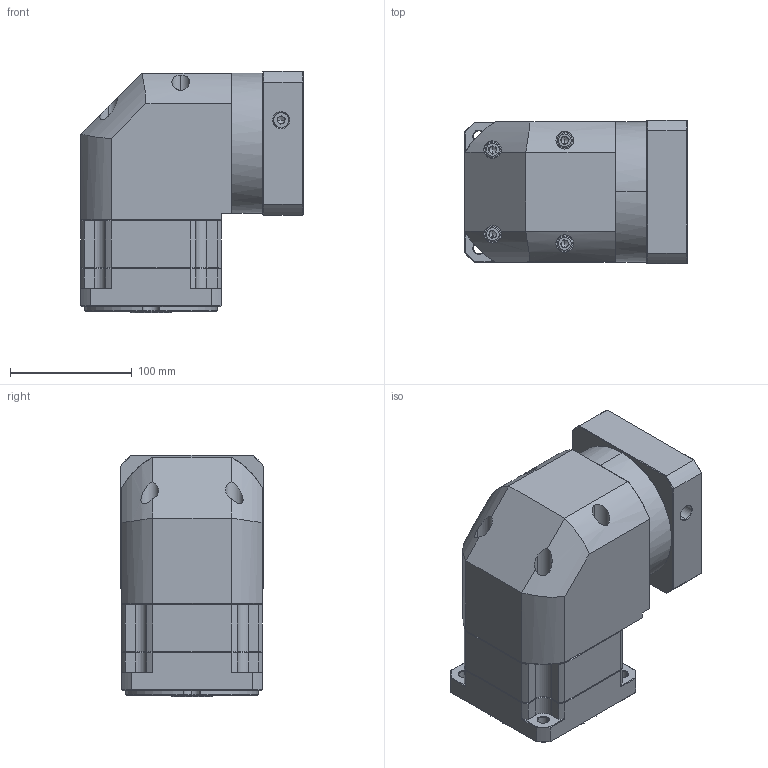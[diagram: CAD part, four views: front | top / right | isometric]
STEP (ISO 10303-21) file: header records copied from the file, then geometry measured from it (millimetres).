
FILE_DESCRIPTION (( 'STEP AP214' ), '1' );
FILE_NAME ('ZBR115A-K25-L1-P2-24-95-115-M6.step', '2023-08-26T12:43:00', ( '' ), ( '' ), 'SwSTEP 2.0', 'SolidWorks 2016', '' );
FILE_SCHEMA (( 'AUTOMOTIVE_DESIGN' ));
Length unit declared in the file: millimetre
Products named in the file (1): ZBR115A-K25-L1-P2-24-95-115-M6
Bounding box: 182.4 x 118 x 198 mm (x, y, z)
Volume: 2815299.1 mm3; surface area: 235853.3 mm2
Topology: 6 solids, 6 shells, 2311 faces, 6043 edges, 3835 vertices
Faces by surface type: plane 1131, bspline 419, cylinder 391, cone 362, torus 8
Entity records: 122874 total; most frequent: CARTESIAN_POINT 43998, ORIENTED_EDGE 12030, DIRECTION 9529, EDGE_CURVE 6015, VECTOR 3917, LINE 3917, VERTEX_POINT 3835, AXIS2_PLACEMENT_3D 2806
